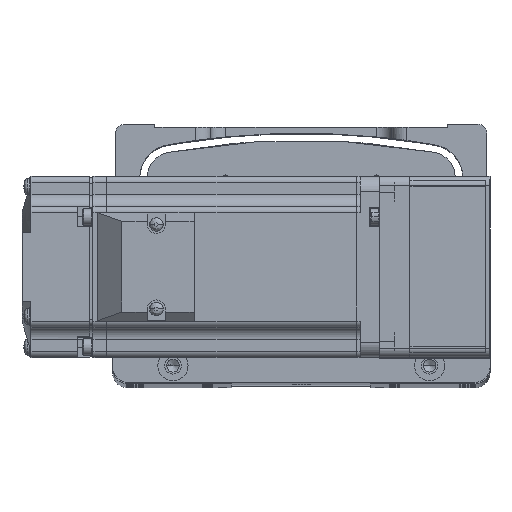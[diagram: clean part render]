
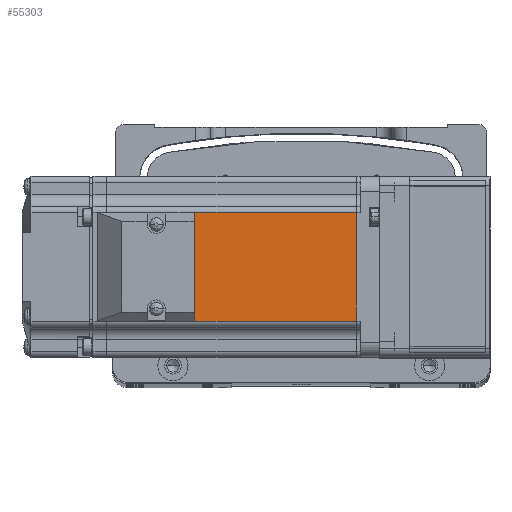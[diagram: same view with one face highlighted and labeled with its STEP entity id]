
A CAD part, top view. The second image highlights one B-rep face of the part: STEP entity #55303.
In plain terms, the highlighted planar face has unit normal (0, 0, 1) as drawn and (0, 1, 0) by its records, which use the part's own axes.
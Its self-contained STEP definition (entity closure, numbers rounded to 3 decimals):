
#954 = LINE ( 'NONE', #35115, #49755 ) ;
#3588 = VERTEX_POINT ( 'NONE', #26191 ) ;
#3844 = VERTEX_POINT ( 'NONE', #11935 ) ;
#4199 = LINE ( 'NONE', #10189, #69988 ) ;
#5210 = EDGE_CURVE ( 'NONE', #35348, #3588, #4199, .T. ) ;
#10189 = CARTESIAN_POINT ( 'NONE',  ( -6.5, 30., 18. ) ) ;
#11935 = CARTESIAN_POINT ( 'NONE',  ( -90.45, 30., -18. ) ) ;
#14034 = LINE ( 'NONE', #76740, #62861 ) ;
#14115 = FACE_OUTER_BOUND ( 'NONE', #65189, .T. ) ;
#21981 = EDGE_CURVE ( 'NONE', #3844, #35348, #60589, .T. ) ;
#24110 = CARTESIAN_POINT ( 'NONE',  ( -90.45, 30., 18. ) ) ;
#24692 = VECTOR ( 'NONE', #65924, 1000. ) ;
#26191 = CARTESIAN_POINT ( 'NONE',  ( -7.75, 30., 18. ) ) ;
#26223 = VERTEX_POINT ( 'NONE', #72834 ) ;
#32608 = ORIENTED_EDGE ( 'NONE', *, *, #5210, .T. ) ;
#34405 = CARTESIAN_POINT ( 'NONE',  ( -6.5, 30., 25. ) ) ;
#35115 = CARTESIAN_POINT ( 'NONE',  ( -6.5, 30., -18. ) ) ;
#35348 = VERTEX_POINT ( 'NONE', #24110 ) ;
#38543 = DIRECTION ( 'NONE',  ( 0., 0., 1. ) ) ;
#40816 = DIRECTION ( 'NONE',  ( 0., 0., 1. ) ) ;
#49755 = VECTOR ( 'NONE', #66925, 1000. ) ;
#51697 = EDGE_CURVE ( 'NONE', #26223, #3844, #954, .T. ) ;
#53823 = ORIENTED_EDGE ( 'NONE', *, *, #51697, .T. ) ;
#55303 = ADVANCED_FACE ( 'NONE', ( #14115 ), #78782, .T. ) ;
#55596 = EDGE_CURVE ( 'NONE', #26223, #3588, #14034, .T. ) ;
#60589 = LINE ( 'NONE', #78760, #24692 ) ;
#62861 = VECTOR ( 'NONE', #38543, 1000. ) ;
#65189 = EDGE_LOOP ( 'NONE', ( #75488, #53823, #69274, #32608 ) ) ;
#65924 = DIRECTION ( 'NONE',  ( 0., 0., 1. ) ) ;
#66925 = DIRECTION ( 'NONE',  ( -1., 0., 0. ) ) ;
#69274 = ORIENTED_EDGE ( 'NONE', *, *, #21981, .T. ) ;
#69988 = VECTOR ( 'NONE', #73995, 1000. ) ;
#72834 = CARTESIAN_POINT ( 'NONE',  ( -7.75, 30., -18. ) ) ;
#73995 = DIRECTION ( 'NONE',  ( 1., 0., 0. ) ) ;
#75488 = ORIENTED_EDGE ( 'NONE', *, *, #55596, .F. ) ;
#76740 = CARTESIAN_POINT ( 'NONE',  ( -7.75, 30., 0. ) ) ;
#78760 = CARTESIAN_POINT ( 'NONE',  ( -90.45, 30., 0. ) ) ;
#78782 = PLANE ( 'NONE',  #80435 ) ;
#79053 = DIRECTION ( 'NONE',  ( 0., 1., 0. ) ) ;
#80435 = AXIS2_PLACEMENT_3D ( 'NONE', #34405, #79053, #40816 ) ;
